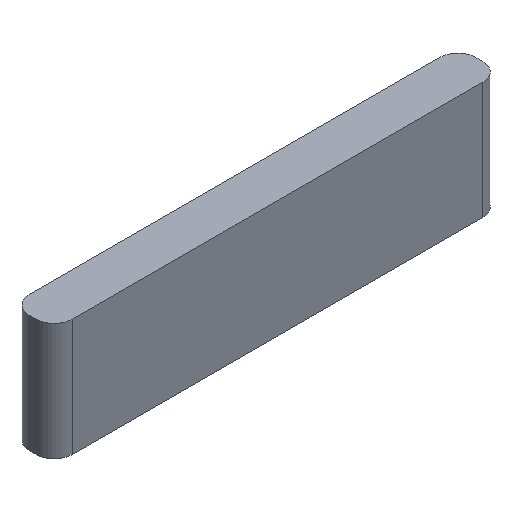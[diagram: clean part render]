
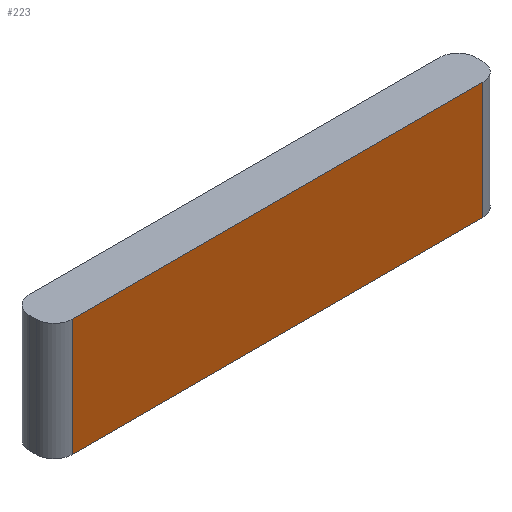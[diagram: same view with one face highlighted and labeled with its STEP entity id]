
A CAD part, isometric view. The second image highlights one B-rep face of the part: STEP entity #223.
In plain terms, the highlighted planar face has unit normal (0, -1, 0).
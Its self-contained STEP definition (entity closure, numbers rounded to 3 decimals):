
#44 = CYLINDRICAL_SURFACE('',#45,0.8);
#45 = AXIS2_PLACEMENT_3D('',#46,#47,#48);
#46 = CARTESIAN_POINT('',(-30.5,47.5,-21.7));
#47 = DIRECTION('',(0.,0.,-1.));
#48 = DIRECTION('',(-1.,0.,0.));
#72 = PLANE('',#73);
#73 = AXIS2_PLACEMENT_3D('',#74,#75,#76);
#74 = CARTESIAN_POINT('',(-21.4,47.65,-16.5));
#75 = DIRECTION('',(0.,0.,1.));
#76 = DIRECTION('',(1.,0.,0.));
#126 = PLANE('',#127);
#127 = AXIS2_PLACEMENT_3D('',#128,#129,#130);
#128 = CARTESIAN_POINT('',(-21.4,47.65,-21.7));
#129 = DIRECTION('',(0.,0.,1.));
#130 = DIRECTION('',(1.,0.,0.));
#141 = EDGE_CURVE('',#142,#144,#146,.T.);
#142 = VERTEX_POINT('',#143);
#143 = CARTESIAN_POINT('',(-30.5,46.7,-21.7));
#144 = VERTEX_POINT('',#145);
#145 = CARTESIAN_POINT('',(-30.5,46.7,-16.5));
#146 = SURFACE_CURVE('',#147,(#151,#158),.PCURVE_S1.);
#147 = LINE('',#148,#149);
#148 = CARTESIAN_POINT('',(-30.5,46.7,-21.7));
#149 = VECTOR('',#150,1.);
#150 = DIRECTION('',(0.,0.,1.));
#151 = PCURVE('',#44,#152);
#152 = DEFINITIONAL_REPRESENTATION('',(#153),#157);
#153 = LINE('',#154,#155);
#154 = CARTESIAN_POINT('',(4.712,0.));
#155 = VECTOR('',#156,1.);
#156 = DIRECTION('',(0.,-1.));
#157 = ( GEOMETRIC_REPRESENTATION_CONTEXT(2) 
PARAMETRIC_REPRESENTATION_CONTEXT() REPRESENTATION_CONTEXT('2D SPACE',''
  ) );
#158 = PCURVE('',#159,#164);
#159 = PLANE('',#160);
#160 = AXIS2_PLACEMENT_3D('',#161,#162,#163);
#161 = CARTESIAN_POINT('',(-30.5,46.7,-21.7));
#162 = DIRECTION('',(0.,1.,0.));
#163 = DIRECTION('',(1.,0.,0.));
#164 = DEFINITIONAL_REPRESENTATION('',(#165),#169);
#165 = LINE('',#166,#167);
#166 = CARTESIAN_POINT('',(0.,0.));
#167 = VECTOR('',#168,1.);
#168 = DIRECTION('',(0.,-1.));
#169 = ( GEOMETRIC_REPRESENTATION_CONTEXT(2) 
PARAMETRIC_REPRESENTATION_CONTEXT() REPRESENTATION_CONTEXT('2D SPACE',''
  ) );
#223 = ADVANCED_FACE('',(#224),#159,.F.);
#224 = FACE_BOUND('',#225,.F.);
#225 = EDGE_LOOP('',(#226,#227,#250,#278));
#226 = ORIENTED_EDGE('',*,*,#141,.T.);
#227 = ORIENTED_EDGE('',*,*,#228,.T.);
#228 = EDGE_CURVE('',#144,#229,#231,.T.);
#229 = VERTEX_POINT('',#230);
#230 = CARTESIAN_POINT('',(-12.3,46.7,-16.5));
#231 = SURFACE_CURVE('',#232,(#236,#243),.PCURVE_S1.);
#232 = LINE('',#233,#234);
#233 = CARTESIAN_POINT('',(-21.4,46.7,-16.5));
#234 = VECTOR('',#235,1.);
#235 = DIRECTION('',(1.,0.,0.));
#236 = PCURVE('',#159,#237);
#237 = DEFINITIONAL_REPRESENTATION('',(#238),#242);
#238 = LINE('',#239,#240);
#239 = CARTESIAN_POINT('',(9.1,-5.2));
#240 = VECTOR('',#241,1.);
#241 = DIRECTION('',(1.,0.));
#242 = ( GEOMETRIC_REPRESENTATION_CONTEXT(2) 
PARAMETRIC_REPRESENTATION_CONTEXT() REPRESENTATION_CONTEXT('2D SPACE',''
  ) );
#243 = PCURVE('',#72,#244);
#244 = DEFINITIONAL_REPRESENTATION('',(#245),#249);
#245 = LINE('',#246,#247);
#246 = CARTESIAN_POINT('',(0.,-0.95));
#247 = VECTOR('',#248,1.);
#248 = DIRECTION('',(1.,0.));
#249 = ( GEOMETRIC_REPRESENTATION_CONTEXT(2) 
PARAMETRIC_REPRESENTATION_CONTEXT() REPRESENTATION_CONTEXT('2D SPACE',''
  ) );
#250 = ORIENTED_EDGE('',*,*,#251,.F.);
#251 = EDGE_CURVE('',#252,#229,#254,.T.);
#252 = VERTEX_POINT('',#253);
#253 = CARTESIAN_POINT('',(-12.3,46.7,-21.7));
#254 = SURFACE_CURVE('',#255,(#259,#266),.PCURVE_S1.);
#255 = LINE('',#256,#257);
#256 = CARTESIAN_POINT('',(-12.3,46.7,-21.7));
#257 = VECTOR('',#258,1.);
#258 = DIRECTION('',(0.,0.,1.));
#259 = PCURVE('',#159,#260);
#260 = DEFINITIONAL_REPRESENTATION('',(#261),#265);
#261 = LINE('',#262,#263);
#262 = CARTESIAN_POINT('',(18.2,0.));
#263 = VECTOR('',#264,1.);
#264 = DIRECTION('',(0.,-1.));
#265 = ( GEOMETRIC_REPRESENTATION_CONTEXT(2) 
PARAMETRIC_REPRESENTATION_CONTEXT() REPRESENTATION_CONTEXT('2D SPACE',''
  ) );
#266 = PCURVE('',#267,#272);
#267 = CYLINDRICAL_SURFACE('',#268,0.8);
#268 = AXIS2_PLACEMENT_3D('',#269,#270,#271);
#269 = CARTESIAN_POINT('',(-12.3,47.5,-21.7));
#270 = DIRECTION('',(0.,0.,-1.));
#271 = DIRECTION('',(-1.,0.,0.));
#272 = DEFINITIONAL_REPRESENTATION('',(#273),#277);
#273 = LINE('',#274,#275);
#274 = CARTESIAN_POINT('',(4.712,0.));
#275 = VECTOR('',#276,1.);
#276 = DIRECTION('',(0.,-1.));
#277 = ( GEOMETRIC_REPRESENTATION_CONTEXT(2) 
PARAMETRIC_REPRESENTATION_CONTEXT() REPRESENTATION_CONTEXT('2D SPACE',''
  ) );
#278 = ORIENTED_EDGE('',*,*,#279,.F.);
#279 = EDGE_CURVE('',#142,#252,#280,.T.);
#280 = SURFACE_CURVE('',#281,(#285,#292),.PCURVE_S1.);
#281 = LINE('',#282,#283);
#282 = CARTESIAN_POINT('',(-21.4,46.7,-21.7));
#283 = VECTOR('',#284,1.);
#284 = DIRECTION('',(1.,0.,0.));
#285 = PCURVE('',#159,#286);
#286 = DEFINITIONAL_REPRESENTATION('',(#287),#291);
#287 = LINE('',#288,#289);
#288 = CARTESIAN_POINT('',(9.1,0.));
#289 = VECTOR('',#290,1.);
#290 = DIRECTION('',(1.,0.));
#291 = ( GEOMETRIC_REPRESENTATION_CONTEXT(2) 
PARAMETRIC_REPRESENTATION_CONTEXT() REPRESENTATION_CONTEXT('2D SPACE',''
  ) );
#292 = PCURVE('',#126,#293);
#293 = DEFINITIONAL_REPRESENTATION('',(#294),#298);
#294 = LINE('',#295,#296);
#295 = CARTESIAN_POINT('',(0.,-0.95));
#296 = VECTOR('',#297,1.);
#297 = DIRECTION('',(1.,0.));
#298 = ( GEOMETRIC_REPRESENTATION_CONTEXT(2) 
PARAMETRIC_REPRESENTATION_CONTEXT() REPRESENTATION_CONTEXT('2D SPACE',''
  ) );
